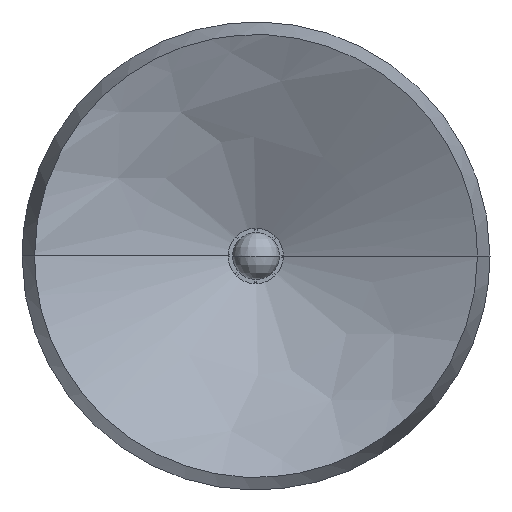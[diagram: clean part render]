
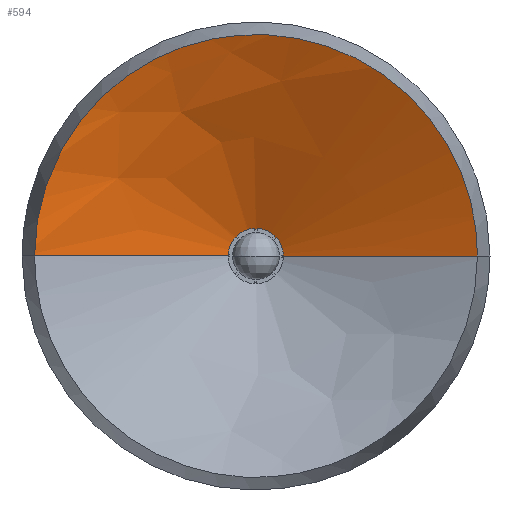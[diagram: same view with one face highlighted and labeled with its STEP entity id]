
A CAD part, front view. The second image highlights one B-rep face of the part: STEP entity #594.
In plain terms, the highlighted free-form (B-spline) face has degree [2, 1] with [5, 2] control points.
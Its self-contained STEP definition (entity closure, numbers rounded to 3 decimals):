
#594=ADVANCED_FACE('',(#1038),#7552,.T.);
#1038=FACE_OUTER_BOUND('',#1519,.T.);
#1519=EDGE_LOOP('',(#3897,#3898,#3899,#3900));
#3897=ORIENTED_EDGE('',*,*,#5116,.T.);
#3898=ORIENTED_EDGE('',*,*,#5111,.T.);
#3899=ORIENTED_EDGE('',*,*,#5112,.T.);
#3900=ORIENTED_EDGE('',*,*,#5115,.F.);
#5111=EDGE_CURVE('',#7106,#7107,#5845,.T.);
#5112=EDGE_CURVE('',#7107,#7110,#6330,.T.);
#5115=EDGE_CURVE('',#7109,#7110,#5847,.T.);
#5116=EDGE_CURVE('',#7109,#7106,#6332,.T.);
#5845=B_SPLINE_CURVE_WITH_KNOTS('',1,(#38247,#38248),.UNSPECIFIED.,.F.,
 .F.,(2,2),(0.,1884.956),.UNSPECIFIED.);
#5847=B_SPLINE_CURVE_WITH_KNOTS('',1,(#38261,#38262),.UNSPECIFIED.,.F.,
 .F.,(2,2),(0.,1884.956),.UNSPECIFIED.);
#6330=(
BOUNDED_CURVE()
B_SPLINE_CURVE(2,(#38249,#38250,#38251,#38252,#38253),.UNSPECIFIED.,.F.,
 .F.)
B_SPLINE_CURVE_WITH_KNOTS((3,2,3),(-324.945,-243.709,
-162.472),.UNSPECIFIED.)
CURVE()
GEOMETRIC_REPRESENTATION_ITEM()
RATIONAL_B_SPLINE_CURVE((1.,0.707,1.,0.707,1.))
REPRESENTATION_ITEM('')
);
#6332=(
BOUNDED_CURVE()
B_SPLINE_CURVE(2,(#38263,#38264,#38265,#38266,#38267),.UNSPECIFIED.,.F.,
 .F.)
B_SPLINE_CURVE_WITH_KNOTS((3,2,3),(162.472,243.709,324.945),
 .UNSPECIFIED.)
CURVE()
GEOMETRIC_REPRESENTATION_ITEM()
RATIONAL_B_SPLINE_CURVE((1.,0.707,1.,0.707,1.))
REPRESENTATION_ITEM('')
);
#7106=VERTEX_POINT('',#38236);
#7107=VERTEX_POINT('',#38237);
#7109=VERTEX_POINT('',#38239);
#7110=VERTEX_POINT('',#38240);
#7552=(
BOUNDED_SURFACE()
B_SPLINE_SURFACE(2,1,((#38216,#38217),(#38218,#38219),(#38220,#38221),(#38222,
#38223),(#38224,#38225)),.UNSPECIFIED.,.F.,.F.,.F.)
B_SPLINE_SURFACE_WITH_KNOTS((3,2,3),(2,2),(162.472,243.709,
324.945),(0.,1884.956),.UNSPECIFIED.)
GEOMETRIC_REPRESENTATION_ITEM()
RATIONAL_B_SPLINE_SURFACE(((1.,1.),(0.707,0.707),
(1.,1.),(0.707,0.707),(1.,1.)))
REPRESENTATION_ITEM('')
SURFACE()
);
#38216=CARTESIAN_POINT('',(300.,60.,0.));
#38217=CARTESIAN_POINT('',(5.5,197.328,0.));
#38218=CARTESIAN_POINT('',(300.,60.,300.));
#38219=CARTESIAN_POINT('',(5.5,197.328,5.5));
#38220=CARTESIAN_POINT('',(0.,60.,300.));
#38221=CARTESIAN_POINT('',(0.,197.328,5.5));
#38222=CARTESIAN_POINT('',(-300.,60.,300.));
#38223=CARTESIAN_POINT('',(-5.5,197.328,5.5));
#38224=CARTESIAN_POINT('',(-300.,60.,0.));
#38225=CARTESIAN_POINT('',(-5.5,197.328,0.));
#38236=CARTESIAN_POINT('',(-300.,60.,0.));
#38237=CARTESIAN_POINT('',(-5.5,197.328,0.));
#38239=CARTESIAN_POINT('',(300.,60.,0.));
#38240=CARTESIAN_POINT('',(5.5,197.328,0.));
#38247=CARTESIAN_POINT('',(-300.,60.,0.));
#38248=CARTESIAN_POINT('',(-5.5,197.328,0.));
#38249=CARTESIAN_POINT('',(-5.5,197.328,0.));
#38250=CARTESIAN_POINT('',(-5.5,197.328,5.5));
#38251=CARTESIAN_POINT('',(0.,197.328,5.5));
#38252=CARTESIAN_POINT('',(5.5,197.328,5.5));
#38253=CARTESIAN_POINT('',(5.5,197.328,0.));
#38261=CARTESIAN_POINT('',(300.,60.,0.));
#38262=CARTESIAN_POINT('',(5.5,197.328,0.));
#38263=CARTESIAN_POINT('',(300.,60.,0.));
#38264=CARTESIAN_POINT('',(300.,60.,300.));
#38265=CARTESIAN_POINT('',(0.,60.,300.));
#38266=CARTESIAN_POINT('',(-300.,60.,300.));
#38267=CARTESIAN_POINT('',(-300.,60.,0.));
